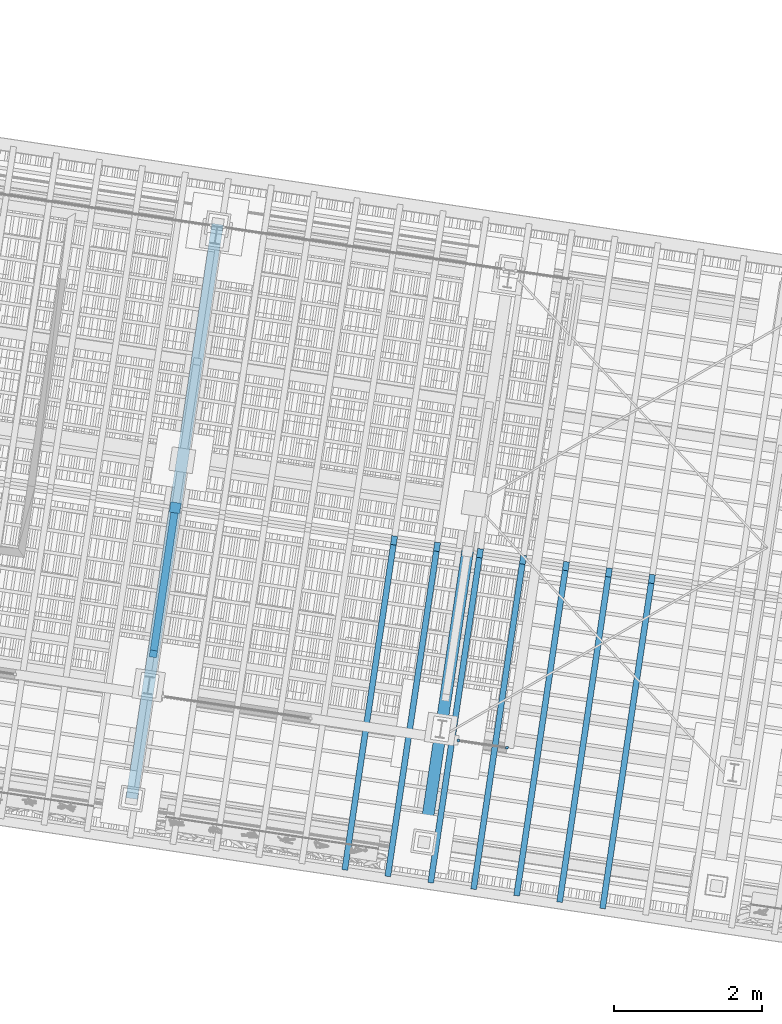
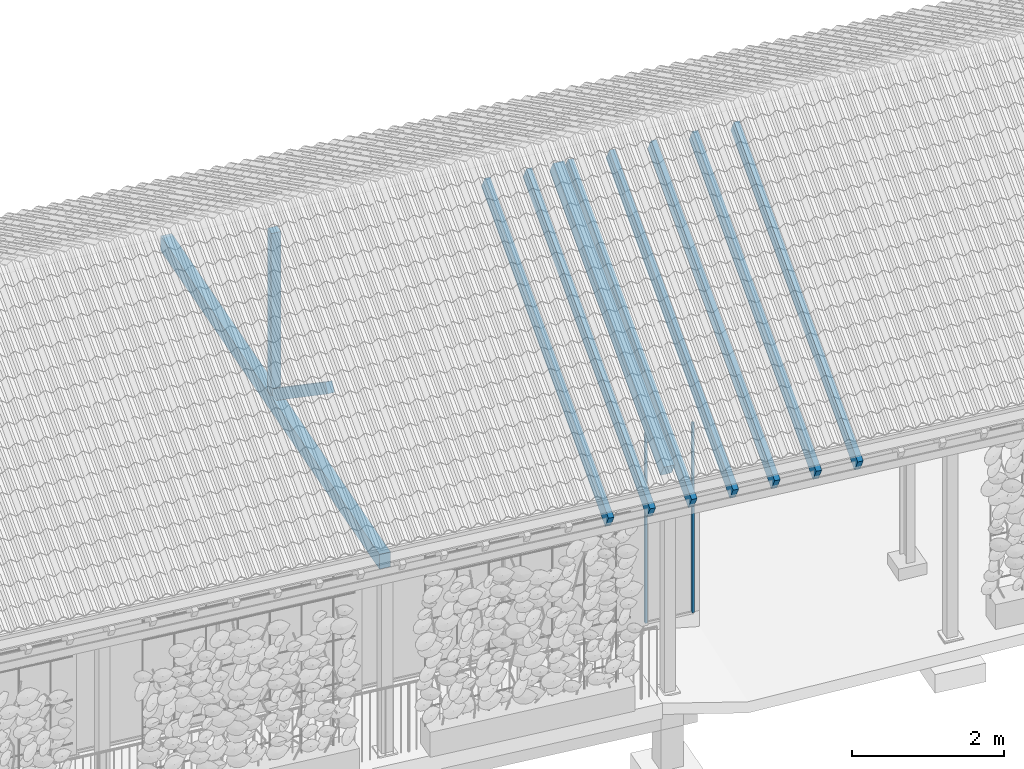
# One storey, part 94 of 131: 12 members, 1 beam, 1 element without a shape of its own.
"""IFC4 building model written with IfcOpenShell, lengths in metres."""

import ifcopenshell
import ifcopenshell.guid

model = None  # the IFC model being written
_history = None  # IfcOwnerHistory: only IFC2X3 demands one
_inside = {}  # id of a spatial element -> (the spatial element, [elements in it])
_under = {}  # id of a project, library or spatial element -> (it, [spatial elements below it])
_declared = {}  # id of a project -> (the project, [libraries it declares])
_typed = {}  # id of a type object -> (the type object, [elements of that type])
_made_of = {}  # id of a material, layer set ... -> (it, [elements and type objects made of it])


def new_model(schema):
    """Start an empty IFC model of exactly this schema.

    Asked for "IFC4X3", IfcOpenShell would pick the latest addendum, in which some entities
    have other attributes; the version numbers below select the first issue.
    IFC2X3 requires an IfcOwnerHistory on every rooted entity: one is made here for all.
    """
    global model, _history
    if schema == "IFC4X3":
        model = ifcopenshell.file(schema_version=(4, 3, 0, 0))
    else:
        model = ifcopenshell.file(schema=schema)
    _inside.clear()
    _under.clear()
    _declared.clear()
    _typed.clear()
    _made_of.clear()
    _history = None
    if model.schema == "IFC2X3":
        org = make("IfcOrganization", Name="unknown")
        user = make(
            "IfcPersonAndOrganization",
            ThePerson=make("IfcPerson", FamilyName="unknown"),
            TheOrganization=org,
        )
        app = make(
            "IfcApplication",
            ApplicationDeveloper=org,
            Version="unknown",
            ApplicationFullName="unknown",
            ApplicationIdentifier="unknown",
        )
        _history = make(
            "IfcOwnerHistory",
            OwningUser=user,
            OwningApplication=app,
            ChangeAction="ADDED",
            CreationDate=0,
        )
    return model


def make(cls, **values):
    """One entity of the class cls with the attributes given. An attribute that is None is left unset."""
    return model.create_entity(
        cls, **{name: value for name, value in values.items() if value is not None}
    )


def rooted(cls, **values):
    """An entity with a GlobalId (a new one), such as an element, a storey or a relation."""
    return make(cls, GlobalId=ifcopenshell.guid.new(), OwnerHistory=_history, **values)


def si_unit(unit_type, name, prefix=None):
    """IfcSIUnit, for example si_unit("LENGTHUNIT", "METRE", prefix="MILLI")."""
    return make("IfcSIUnit", UnitType=unit_type, Prefix=prefix, Name=name)


def assignment(units):
    """IfcUnitAssignment: the units of a project."""
    return None if units is None else make("IfcUnitAssignment", Units=units)


def point(xyz):
    """IfcCartesianPoint."""
    return None if xyz is None else make("IfcCartesianPoint", Coordinates=xyz)


def direction(xyz):
    """IfcDirection."""
    return None if xyz is None else make("IfcDirection", DirectionRatios=xyz)


def frame(location, z_axis=None, x_axis=None):
    """IfcAxis2Placement3D, a coordinate frame: its origin and axes. An axis left out is left unset."""
    return make(
        "IfcAxis2Placement3D",
        Location=point(location),
        Axis=direction(z_axis),
        RefDirection=direction(x_axis),
    )


def origin_with_axes():
    """The frame at (0, 0, 0) with the z axis (0, 0, 1) and the x axis (1, 0, 0) written out."""
    return frame((0.0, 0.0, 0.0), z_axis=(0.0, 0.0, 1.0), x_axis=(1.0, 0.0, 0.0))


def place(relative_to, where):
    """IfcLocalPlacement: puts the frame where relative to a parent placement (None: the world)."""
    return make(
        "IfcLocalPlacement", PlacementRelTo=relative_to, RelativePlacement=where
    )


def context(
    kind, dimensions, precision=None, world=None, true_north=None, identifier=None
):
    """IfcGeometricRepresentationContext, for example the 3D "Model" context."""
    return make(
        "IfcGeometricRepresentationContext",
        ContextIdentifier=identifier,
        ContextType=kind,
        CoordinateSpaceDimension=dimensions,
        Precision=precision,
        WorldCoordinateSystem=world,
        TrueNorth=true_north,
    )


def subcontext(parent, identifier, kind, view, scale=None):
    """IfcGeometricRepresentationSubContext, for example "Body" below "Model"."""
    return make(
        "IfcGeometricRepresentationSubContext",
        ContextIdentifier=identifier,
        ContextType=kind,
        ParentContext=parent,
        TargetScale=scale,
        TargetView=view,
    )


def project(units=None, contexts=None):
    """IfcProject with its units and contexts."""
    return rooted(
        "IfcProject",
        Name="project",
        RepresentationContexts=contexts,
        UnitsInContext=assignment(units),
    )


def spatial(cls, under=None, at=None, **own):
    """A site, building, storey or space (cls), placed at a placement, below another one or the project."""
    s = rooted(cls, ObjectPlacement=at, **own)
    if under is not None:
        _under.setdefault(under.id(), (under, []))[1].append(s)
    return s


def profile(cls, at=None, kind="AREA", **sizes):
    """A parametric profile (cls). Its sizes go by their IFC names, for example OverallWidth=200.0."""
    return make(cls, ProfileType=kind, Position=at, **sizes)


def rectangle(**sizes):
    """IfcRectangleProfileDef."""
    return profile("IfcRectangleProfileDef", **sizes)


def extrude(swept, where, along, depth):
    """IfcExtrudedAreaSolid: the profile swept, set in the frame where, extruded along a direction by depth."""
    return make(
        "IfcExtrudedAreaSolid",
        SweptArea=swept,
        Position=where,
        ExtrudedDirection=direction(along),
        Depth=depth,
    )


def shape(context_of_items, identifier, shape_type, items):
    """IfcShapeRepresentation: the items that make up one representation, for example the "Body"."""
    return make(
        "IfcShapeRepresentation",
        ContextOfItems=context_of_items,
        RepresentationIdentifier=identifier,
        RepresentationType=shape_type,
        Items=items,
    )


def material(Name=None, Category=None):
    """IfcMaterial."""
    return make("IfcMaterial", Name=Name, Category=Category)


def material_profile(
    of_material, cross_section, Name=None, Category=None, Priority=None
):
    """IfcMaterialProfile: a cross section and its material."""
    return make(
        "IfcMaterialProfile",
        Name=Name,
        Material=of_material,
        Profile=cross_section,
        Priority=Priority,
        Category=Category,
    )


def profile_set(profiles, Name=None, composite=None):
    """IfcMaterialProfileSet."""
    return make(
        "IfcMaterialProfileSet",
        Name=Name,
        MaterialProfiles=profiles,
        CompositeProfile=composite,
    )


def profile_usage(for_profile_set, cardinal=None, extent=None):
    """IfcMaterialProfileSetUsage: how a profile set lies along its element."""
    return make(
        "IfcMaterialProfileSetUsage",
        ForProfileSet=for_profile_set,
        CardinalPoint=cardinal,
        ReferenceExtent=extent,
    )


def made_of(thing, what):
    """Note that an element or type object is made of a material, layer set ...; save() writes the relation."""
    if what is not None:
        _made_of.setdefault(what.id(), (what, []))[1].append(thing)
    return thing


def type_object(cls, material=None, **own):
    """A type object (cls), such as IfcWallType, which elements share."""
    return made_of(rooted(cls, **own), material)


def element(
    cls,
    number,
    at=None,
    inside=None,
    cuts=None,
    type_object=None,
    material=None,
    context=None,
    identifier="Body",
    shape_type=None,
    held_by="IfcProductDefinitionShape",
    body=None,
    shapes=None,
    **own,
):
    """One element of the class cls, such as IfcWall. Its Tag is "e" and its number.

    at: its placement. inside: the storey or other place that contains it. cuts: it is an
    opening in that element (IfcRelVoidsElement). A single representation is given by context,
    identifier, shape_type and body (its items); several are given by shapes. held_by: the class
    of the entity that holds the representations. save() writes the other relations.
    """
    e = rooted(cls, Tag="e%d" % number, ObjectPlacement=at, **own)
    if body is not None:
        shapes = [shape(context, identifier, shape_type, body)]
    if shapes is not None:
        e.Representation = make(held_by, Representations=shapes)
    if inside is not None:
        _inside.setdefault(inside.id(), (inside, []))[1].append(e)
    if cuts is not None:
        rooted(
            "IfcRelVoidsElement", RelatingBuildingElement=cuts, RelatedOpeningElement=e
        )
    if type_object is not None:
        _typed.setdefault(type_object.id(), (type_object, []))[1].append(e)
    return made_of(e, material)


def aggregate(whole, parts):
    """IfcRelAggregates: a whole, such as a stair, and the parts it consists of."""
    return rooted("IfcRelAggregates", RelatingObject=whole, RelatedObjects=parts)


def save(model, path):
    """Write the relations noted so far, then the file.

    IfcRelAggregates (storeys below a building ...), IfcRelContainedInSpatialStructure (elements
    in a storey), IfcRelDefinesByType, IfcRelAssociatesMaterial and IfcRelDeclares: one each for
    every whole, place, type object, material and project.
    """
    for whole, parts in _under.values():
        aggregate(whole, parts)
    for where, things in _inside.values():
        rooted(
            "IfcRelContainedInSpatialStructure",
            RelatedElements=things,
            RelatingStructure=where,
        )
    for kind, things in _typed.values():
        rooted("IfcRelDefinesByType", RelatedObjects=things, RelatingType=kind)
    for what, things in _made_of.values():
        rooted("IfcRelAssociatesMaterial", RelatedObjects=things, RelatingMaterial=what)
    for by, libraries in _declared.values():
        rooted("IfcRelDeclares", RelatingContext=by, RelatedDefinitions=libraries)
    model.write(path)


model = new_model("IFC4")

# Units and contexts
model_context = context("Model", 3, precision=1e-05, world=origin_with_axes(), true_north=direction((0.0, 1.0)))
body_context = subcontext(model_context, "Body", "Model", "MODEL_VIEW")
ifc_project = project(units=[si_unit("AREAUNIT", "SQUARE_METRE"), si_unit("VOLUMEUNIT", "CUBIC_METRE"), si_unit("LENGTHUNIT", "METRE")], contexts=[model_context])

# Site, building, storey
site_placement = place(None, origin_with_axes())
site = spatial("IfcSite", under=ifc_project, at=site_placement, Name="Lares · Rua das Mercês · artigo 4771")
building_placement = place(site_placement, frame((15.0, 9.7, 14.65), z_axis=(0.0, 0.0, 1.0), x_axis=(0.989015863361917, -0.147809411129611, 0.0)))
building = spatial("IfcBuilding", under=site, at=building_placement, Name="Casa Sobreposta")
storey_placement = place(building_placement, origin_with_axes())
storey = spatial("IfcBuildingStorey", under=building, at=storey_placement, Name="00 · Habitação e estacionamento", Elevation=14.65)

# Members
ifc_material_1 = material(Name="Aço pintado / Stahl lackiert", Category="steel")
ifc_material_profile_1 = material_profile(ifc_material_1, rectangle(XDim=0.035, YDim=0.035))
ifc_profile_set_1 = profile_set([ifc_material_profile_1], Name="R0.035")
ifc_profile_usage_1 = profile_usage(ifc_profile_set_1)
member_type_1 = type_object("IfcMemberType", Name="R0.035 / steel", PredefinedType="NOTDEFINED", material=ifc_profile_set_1)
member_1_placement = place(storey_placement, frame((24.256, 0.0, 0.0), z_axis=(0.0, 0.0, 1.0), x_axis=(1.0, 0.0, 0.0)))
element("IfcMember", 1, at=member_1_placement, inside=storey, type_object=member_type_1, material=ifc_profile_usage_1, Name="Folha de correr sul 12 · montante", context=body_context, shape_type="SweptSolid", body=[
    extrude(rectangle(XDim=0.035, YDim=0.035), origin_with_axes(), (0.0, 0.0, 1.0), 3.05),
])
ifc_profile_usage_2 = profile_usage(ifc_profile_set_1)
member_2_placement = place(storey_placement, frame((24.92, 0.0, 0.0), z_axis=(0.0, 0.0, 1.0), x_axis=(1.0, 0.0, 0.0)))
element("IfcMember", 2, at=member_2_placement, inside=storey, type_object=member_type_1, material=ifc_profile_usage_2, Name="Folha de correr sul 12 · montante", context=body_context, shape_type="SweptSolid", body=[
    extrude(rectangle(XDim=0.035, YDim=0.035), origin_with_axes(), (0.0, 0.0, 1.0), 3.05),
])

# Roof, beam, members
ifc_material_2 = material(Name="Madeira / Bauholz", Category="wood")
roof_placement = place(storey_placement, origin_with_axes())
roof = element("IfcRoof", 3, at=roof_placement, inside=storey, material=ifc_material_2, Name="Cobertura de telha · duas águas 30 graus", PredefinedType="GABLE_ROOF")
ifc_material_profile_2 = material_profile(ifc_material_2, rectangle(XDim=0.16, YDim=0.24))
ifc_profile_set_2 = profile_set([ifc_material_profile_2], Name="TIMBER0.160x0.240")
ifc_profile_usage_3 = profile_usage(ifc_profile_set_2)
beam_type = type_object("IfcBeamType", Name="TIMBER0.160x0.240 / timber", PredefinedType="NOTDEFINED", material=ifc_profile_set_2)
beam_placement = place(roof_placement, frame((20.0, -1.43, 3.02), z_axis=(0.0, 1.0, 0.0), x_axis=(1.0, 0.0, 0.0)))
beam = element("IfcBeam", 4, at=beam_placement, type_object=beam_type, material=ifc_profile_usage_3, Name="Tesoura · tirante inferior", context=body_context, shape_type="SweptSolid", body=[
    extrude(rectangle(XDim=0.16, YDim=0.24), origin_with_axes(), (0.0, 0.0, 1.0), 7.86),
])
ifc_material_profile_3 = material_profile(ifc_material_2, rectangle(XDim=0.16, YDim=0.24))
ifc_profile_set_3 = profile_set([ifc_material_profile_3], Name="TIMBER0.160x0.240")
ifc_profile_usage_4 = profile_usage(ifc_profile_set_3)
member_type_2 = type_object("IfcMemberType", Name="TIMBER0.160x0.240 / timber", PredefinedType="NOTDEFINED", material=ifc_profile_set_3)
member_3_placement = place(roof_placement, frame((24.0, -1.43, 3.44635462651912), z_axis=(0.0, 0.866025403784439, 0.5), x_axis=(1.0, 0.0, 0.0)))
member_3 = element("IfcMember", 5, at=member_3_placement, type_object=member_type_2, material=ifc_profile_usage_4, Name="Tesoura · perna", context=body_context, shape_type="SweptSolid", body=[
    extrude(rectangle(XDim=0.16, YDim=0.24), origin_with_axes(), (0.0, 0.0, 1.0), 4.59570814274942),
])
ifc_material_profile_4 = material_profile(ifc_material_2, rectangle(XDim=0.14, YDim=0.14))
ifc_profile_set_4 = profile_set([ifc_material_profile_4], Name="TIMBER0.140x0.140")
ifc_profile_usage_5 = profile_usage(ifc_profile_set_4)
member_type_3 = type_object("IfcMemberType", Name="TIMBER0.140x0.140 / timber", PredefinedType="NOTDEFINED", material=ifc_profile_set_4)
member_4_placement = place(roof_placement, frame((20.0, 2.55, 3.02), z_axis=(0.0, 0.0, 1.0), x_axis=(1.0, 0.0, 0.0)))
member_4 = element("IfcMember", 6, at=member_4_placement, type_object=member_type_3, material=ifc_profile_usage_5, Name="Tesoura · pendural", context=body_context, shape_type="SweptSolid", body=[
    extrude(rectangle(XDim=0.14, YDim=0.14), origin_with_axes(), (0.0, 0.0, 1.0), 2.72420869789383),
])
ifc_material_profile_5 = material_profile(ifc_material_2, rectangle(XDim=0.1, YDim=0.16))
ifc_profile_set_5 = profile_set([ifc_material_profile_5], Name="TIMBER0.100x0.160")
ifc_profile_usage_6 = profile_usage(ifc_profile_set_5)
member_type_4 = type_object("IfcMemberType", Name="TIMBER0.100x0.160 / timber", PredefinedType="NOTDEFINED", material=ifc_profile_set_5)
member_5_placement = place(roof_placement, frame((20.0, 2.55, 3.1), z_axis=(0.0, -0.816439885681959, 0.577430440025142), x_axis=(-1.0, 0.0, 0.0)))
member_5 = element("IfcMember", 7, at=member_5_placement, type_object=member_type_4, material=ifc_profile_usage_6, Name="Tesoura · escora", context=body_context, shape_type="SweptSolid", body=[
    extrude(rectangle(XDim=0.1, YDim=0.16), origin_with_axes(), (0.0, 0.0, 1.0), 2.44965984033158),
])
ifc_material_profile_6 = material_profile(ifc_material_2, rectangle(XDim=0.08, YDim=0.24))
ifc_profile_set_6 = profile_set([ifc_material_profile_6], Name="TIMBER0.080x0.240")
ifc_profile_usage_7 = profile_usage(ifc_profile_set_6)
member_type_5 = type_object("IfcMemberType", Name="TIMBER0.080x0.240 / timber", PredefinedType="NOTDEFINED", material=ifc_profile_set_6)
member_6_placement = place(roof_placement, frame((22.9939393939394, -1.9, 3.181), z_axis=(0.0, 0.866025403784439, 0.5), x_axis=(1.0, 0.0, 0.0)))
member_6 = element("IfcMember", 8, at=member_6_placement, type_object=member_type_5, material=ifc_profile_usage_7, Name="Cobertura · caibro", context=body_context, shape_type="SweptSolid", body=[
    extrude(rectangle(XDim=0.08, YDim=0.24), origin_with_axes(), (0.0, 0.0, 1.0), 5.13841739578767),
])
ifc_profile_usage_8 = profile_usage(ifc_profile_set_6)
member_7_placement = place(roof_placement, frame((23.5818181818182, -1.9, 3.181), z_axis=(0.0, 0.866025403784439, 0.5), x_axis=(1.0, 0.0, 0.0)))
member_7 = element("IfcMember", 9, at=member_7_placement, type_object=member_type_5, material=ifc_profile_usage_8, Name="Cobertura · caibro", context=body_context, shape_type="SweptSolid", body=[
    extrude(rectangle(XDim=0.08, YDim=0.24), origin_with_axes(), (0.0, 0.0, 1.0), 5.13841739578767),
])
ifc_profile_usage_9 = profile_usage(ifc_profile_set_6)
member_8_placement = place(roof_placement, frame((24.169696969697, -1.9, 3.181), z_axis=(0.0, 0.866025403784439, 0.5), x_axis=(1.0, 0.0, 0.0)))
member_8 = element("IfcMember", 10, at=member_8_placement, type_object=member_type_5, material=ifc_profile_usage_9, Name="Cobertura · caibro", context=body_context, shape_type="SweptSolid", body=[
    extrude(rectangle(XDim=0.08, YDim=0.24), origin_with_axes(), (0.0, 0.0, 1.0), 5.13841739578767),
])
ifc_profile_usage_10 = profile_usage(ifc_profile_set_6)
member_9_placement = place(roof_placement, frame((24.7575757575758, -1.9, 3.181), z_axis=(0.0, 0.866025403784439, 0.5), x_axis=(1.0, 0.0, 0.0)))
member_9 = element("IfcMember", 11, at=member_9_placement, type_object=member_type_5, material=ifc_profile_usage_10, Name="Cobertura · caibro", context=body_context, shape_type="SweptSolid", body=[
    extrude(rectangle(XDim=0.08, YDim=0.24), origin_with_axes(), (0.0, 0.0, 1.0), 5.13841739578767),
])
ifc_profile_usage_11 = profile_usage(ifc_profile_set_6)
member_10_placement = place(roof_placement, frame((25.3454545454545, -1.9, 3.181), z_axis=(0.0, 0.866025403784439, 0.5), x_axis=(1.0, 0.0, 0.0)))
member_10 = element("IfcMember", 12, at=member_10_placement, type_object=member_type_5, material=ifc_profile_usage_11, Name="Cobertura · caibro", context=body_context, shape_type="SweptSolid", body=[
    extrude(rectangle(XDim=0.08, YDim=0.24), origin_with_axes(), (0.0, 0.0, 1.0), 5.13841739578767),
])
ifc_profile_usage_12 = profile_usage(ifc_profile_set_6)
member_11_placement = place(roof_placement, frame((25.9333333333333, -1.9, 3.181), z_axis=(0.0, 0.866025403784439, 0.5), x_axis=(1.0, 0.0, 0.0)))
member_11 = element("IfcMember", 13, at=member_11_placement, type_object=member_type_5, material=ifc_profile_usage_12, Name="Cobertura · caibro", context=body_context, shape_type="SweptSolid", body=[
    extrude(rectangle(XDim=0.08, YDim=0.24), origin_with_axes(), (0.0, 0.0, 1.0), 5.13841739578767),
])
ifc_profile_usage_13 = profile_usage(ifc_profile_set_6)
member_12_placement = place(roof_placement, frame((26.5212121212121, -1.9, 3.181), z_axis=(0.0, 0.866025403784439, 0.5), x_axis=(1.0, 0.0, 0.0)))
member_12 = element("IfcMember", 14, at=member_12_placement, type_object=member_type_5, material=ifc_profile_usage_13, Name="Cobertura · caibro", context=body_context, shape_type="SweptSolid", body=[
    extrude(rectangle(XDim=0.08, YDim=0.24), origin_with_axes(), (0.0, 0.0, 1.0), 5.13841739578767),
])
aggregate(roof, [beam, member_4, member_5, member_3, member_6, member_7, member_8, member_9, member_10, member_11, member_12])

save(model, "model.ifc")
